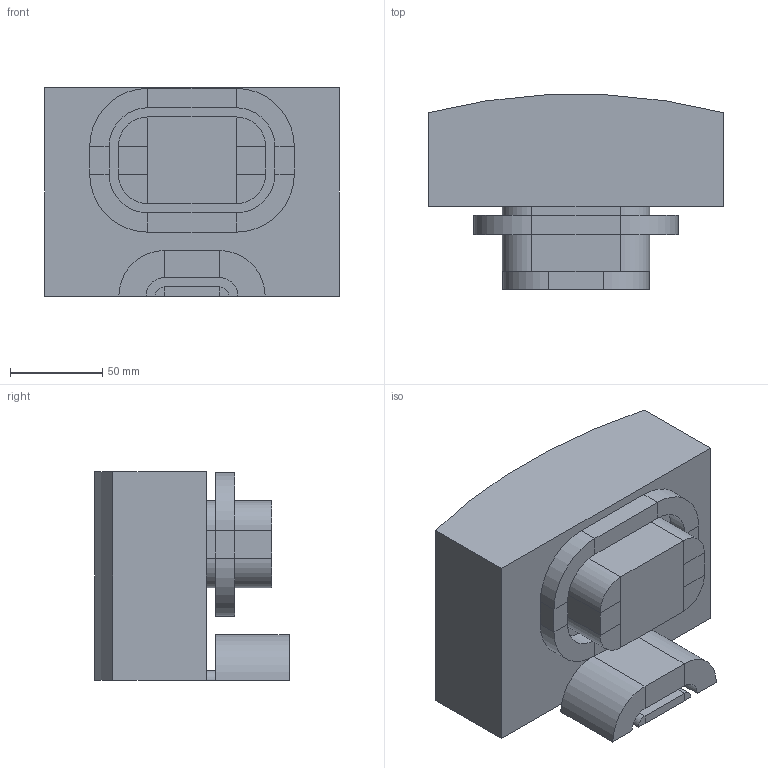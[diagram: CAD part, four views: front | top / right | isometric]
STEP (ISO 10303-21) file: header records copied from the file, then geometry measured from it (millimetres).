
FILE_DESCRIPTION(('STEP AP214'),'1');
FILE_NAME('SWLS_Sirius_Model4_step.step','2021-11-11T18:21:56',(' '),(' '),'Spatial InterOp 3D',' ',' ');
FILE_SCHEMA(('AUTOMOTIVE_DESIGN { 1 0 10303 214 1 1 1 1 }'));
Length unit declared in the file: millimetre
Products named in the file (1): Yoke
Bounding box: 160 x 105.36 x 113 mm (x, y, z)
Volume: 1255136.6 mm3; surface area: 124357.6 mm2
Topology: 22 solids, 22 shells, 126 faces, 246 edges, 164 vertices
Faces by surface type: plane 107, cylinder 19
Entity records: 3287 total; most frequent: DIRECTION 580, CARTESIAN_POINT 558, ORIENTED_EDGE 492, EDGE_CURVE 246, LINE 208, VECTOR 208, AXIS2_PLACEMENT_3D 186, VERTEX_POINT 164
